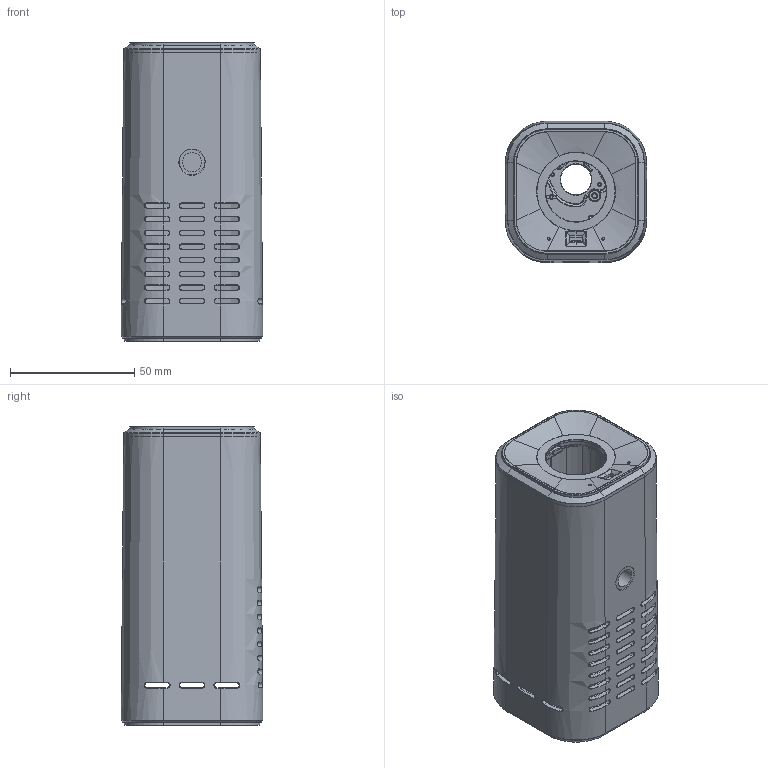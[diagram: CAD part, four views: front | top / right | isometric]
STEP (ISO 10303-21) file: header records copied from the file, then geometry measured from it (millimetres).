
FILE_DESCRIPTION(/* description */ ('','CAx-IF Rec.Pracs.---Representation and Presentation of Product Manufacturing Information (PMI)---4.0---2014-10-13'),/* implementation_level */ '2;1');
FILE_NAME(/* name */ 'BirdDog_MAKI-Live_3D-file.step',/* time_stamp */ '2025-03-04T11:08:01+11:00',/* author */ (''),/* organization */ (''),/* preprocessor_version */ 'ST-DEVELOPER v20',/* originating_system */ 'Autodesk Translation Framework v13.20.0.188',/* authorisation */ '');
FILE_SCHEMA (('AP242_MANAGED_MODEL_BASED_3D_ENGINEERING_MIM_LF { 1 0 10303 442 1 1 4 }'));
Length unit declared in the file: millimetre
Products named in the file (7): 0_MAKI_ASM_ASM; MAKI-FRONT_ASM; MAKI-_MAKI-10100; MAKI_MAKI-1020001; MAKI-BACK_ASM; MAKI-BACK; MAKI-BACK-TIEPIAN
Assembly tree (6 placements, depth 3):
  0_MAKI_ASM_ASM
    MAKI-FRONT_ASM
      MAKI-_MAKI-10100
      MAKI_MAKI-1020001
    MAKI-BACK_ASM
      MAKI-BACK
      MAKI-BACK-TIEPIAN
Bounding box: 56.99 x 56.99 x 120.1 mm (x, y, z)
Volume: 56417.5 mm3; surface area: 75002.7 mm2
Topology: 5 solids, 6 shells, 3354 faces, 8617 edges, 5253 vertices
Faces by surface type: plane 1162, cylinder 921, bspline 548, torus 323, cone 314, sphere 86
Full cylindrical faces by diameter (mm): 1.2 x2, 1.45 x4, 1.497 x12, 1.5 x3, 1.7 x8, 2 x5, 3.2 x4, 3.45 x1, 3.55 x1, 4.5 x4, 5.85 x2, 7.7 x1, 12.3 x2, 12.4 x1
Entity records: 155896 total; most frequent: CARTESIAN_POINT 76330, ORIENTED_EDGE 17160, DIRECTION 16274, EDGE_CURVE 8614, AXIS2_PLACEMENT_3D 6025, VERTEX_POINT 5253, LINE 4224, VECTOR 4224
